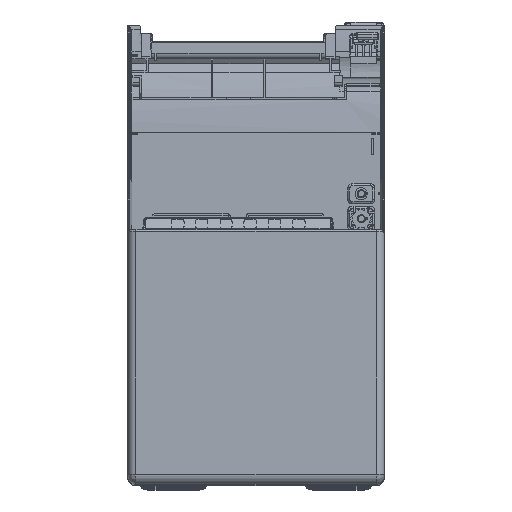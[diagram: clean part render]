
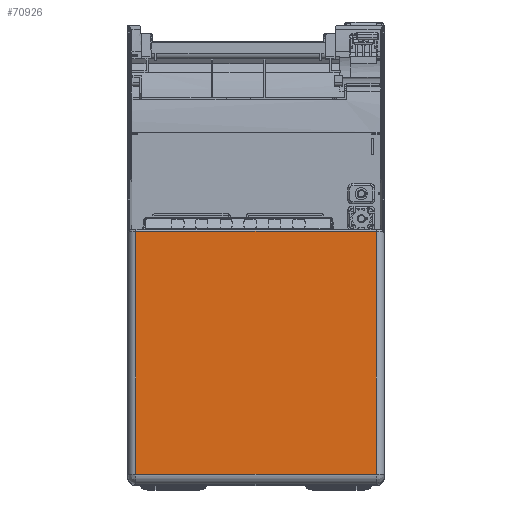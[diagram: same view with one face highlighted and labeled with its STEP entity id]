
A CAD part, top view. The second image highlights one B-rep face of the part: STEP entity #70926.
In plain terms, the highlighted planar face has unit normal (0, 0, 1).
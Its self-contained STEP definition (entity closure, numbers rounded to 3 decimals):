
#37653=CARTESIAN_POINT('',(27.9,19.415,23.5));
#49514=DIRECTION('',(0.,-1.,0.));
#49515=VECTOR('',#49514,120.371);
#49516=CARTESIAN_POINT('',(27.9,19.415,23.5));
#49517=LINE('',#49516,#49515);
#49518=DIRECTION('',(1.,0.,0.));
#49519=VECTOR('',#49518,119.);
#49520=CARTESIAN_POINT('',(-91.1,-100.956,23.5));
#49521=LINE('',#49520,#49519);
#49522=DIRECTION('',(0.,1.,0.));
#49523=VECTOR('',#49522,120.371);
#49524=CARTESIAN_POINT('',(-91.1,-100.956,23.5));
#49525=LINE('',#49524,#49523);
#49526=DIRECTION('',(-1.,0.,0.));
#49527=VECTOR('',#49526,119.);
#49528=CARTESIAN_POINT('',(27.9,19.415,23.5));
#49529=LINE('',#49528,#49527);
#52862=CARTESIAN_POINT('',(27.9,-100.956,23.5));
#52864=VERTEX_POINT('',#52862);
#52866=CARTESIAN_POINT('',(-91.1,-100.956,23.5));
#52868=VERTEX_POINT('',#52866);
#52888=VERTEX_POINT('',#37653);
#52889=CARTESIAN_POINT('',(-91.1,19.415,23.5));
#52890=VERTEX_POINT('',#52889);
#70913=CARTESIAN_POINT('',(-95.1,20.5,23.5));
#70914=DIRECTION('',(0.,0.,1.));
#70915=DIRECTION('',(0.,-1.,0.));
#70916=AXIS2_PLACEMENT_3D('',#70913,#70914,#70915);
#70917=PLANE('',#70916);
#70918=ORIENTED_EDGE('',*,*,#55608,.T.);
#70920=ORIENTED_EDGE('',*,*,#70919,.F.);
#70922=ORIENTED_EDGE('',*,*,#70921,.T.);
#70923=ORIENTED_EDGE('',*,*,#70900,.F.);
#70924=EDGE_LOOP('',(#70918,#70920,#70922,#70923));
#70925=FACE_OUTER_BOUND('',#70924,.F.);
#55608=EDGE_CURVE('',#52888,#52864,#49517,.T.);
#70900=EDGE_CURVE('',#52888,#52890,#49529,.T.);
#70919=EDGE_CURVE('',#52868,#52864,#49521,.T.);
#70921=EDGE_CURVE('',#52868,#52890,#49525,.T.);
#70926=ADVANCED_FACE('',(#70925),#70917,.T.);
